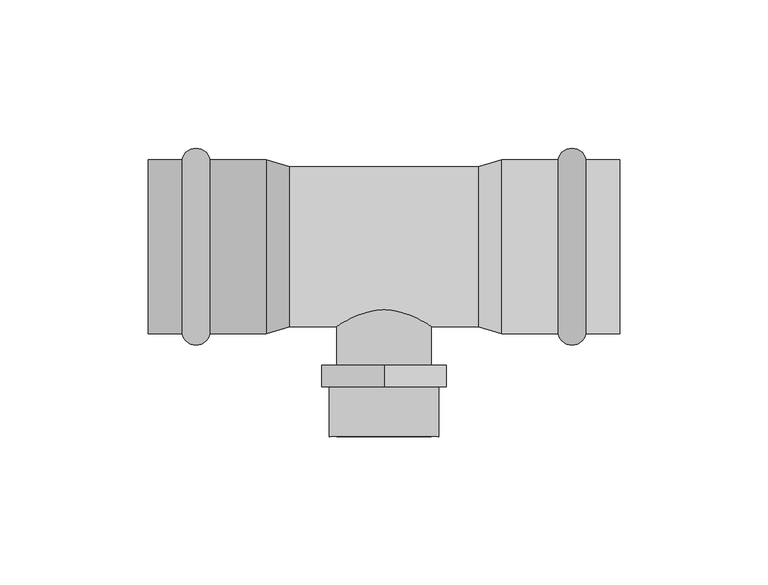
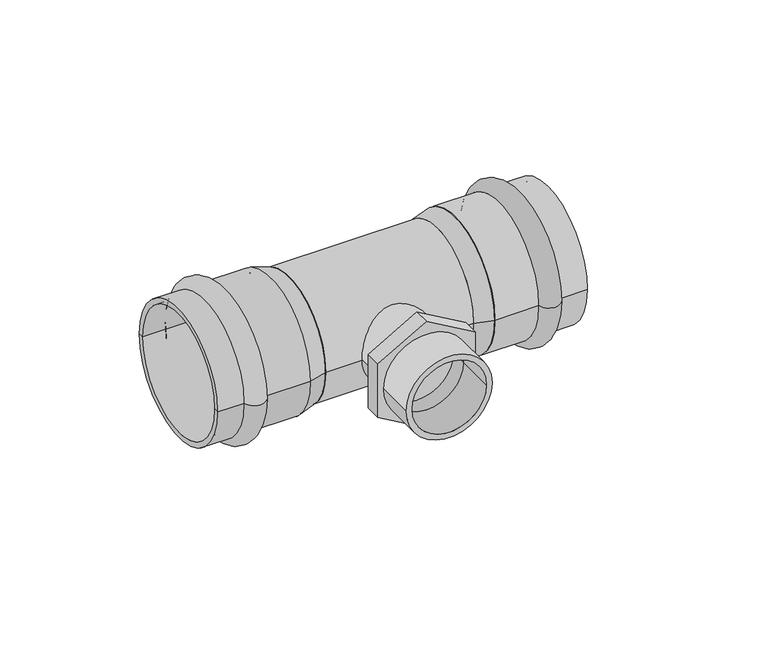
"""IFC4 building model written with IfcOpenShell, lengths in millimetres: pipe fitting geometry, VALTEC_VTi.933.I_Тройник с переходом на наружную  резьбу нержавеющая сталь : VTi.933.I."""

from ifc_helpers import new_model, si_unit, point, frame, origin, origin_2d, place, context, project, spatial, polyline, circle_curve, ellipse_curve, trimmed, segment, composite_curve, outline, extrude, source, transform, mapped, element, save
from ifc_brep_helpers import plane_surface, cylinder_surface, revolved_surface, advanced_brep


def pipe_fitting_71fe2973(model_context):
    return source(origin(), model_context, "Body", "SolidModel", [
        advanced_brep(
        [(68.1148701, 29.3, 0.0), (68.1148701, -29.3, 0.0), (58.6851299, -29.3, 0.0), (58.6851299, 29.3, 0.0), (79.5, 29.3, 0.0), (79.5, -29.3, 0.0), (79.5, 27.0, 0.0), (79.5, -27.0, 0.0), (39.75, 27.0, 0.0), (39.75, -27.0, 0.0), (39.75, 29.3, 0.0), (39.75, -29.3, 0.0)],
        [
            (0, 1, circle_curve(frame((68.1148701, 0.0, 0.0), z_axis=(-1.0, 0.0, 0.0), x_axis=(0.0, -1.0, 0.0)), 29.3)),
            (1, 2, circle_curve(frame((63.4, -28.4, 0.0), z_axis=(0.0, 0.0, -1.0), x_axis=(-1.0, 0.0, 0.0)), 4.8)),
            (2, 3, circle_curve(frame((58.6851299, 0.0, 0.0), z_axis=(1.0, 0.0, 0.0), x_axis=(0.0, -1.0, 0.0)), 29.3)),
            (3, 0, circle_curve(frame((63.4, 28.4, 0.0), z_axis=(0.0, 0.0, -1.0), x_axis=(-1.0, 0.0, 0.0)), 4.8)),
            (1, 0, circle_curve(frame((68.1148701, 0.0, 0.0), z_axis=(-1.0, 0.0, 0.0), x_axis=(0.0, -1.0, 0.0)), 29.3)),
            (3, 2, circle_curve(frame((58.6851299, 0.0, 0.0), z_axis=(1.0, 0.0, 0.0), x_axis=(0.0, -1.0, 0.0)), 29.3)),
            (4, 5, circle_curve(frame((79.5, 0.0, 0.0), z_axis=(-1.0, 0.0, 0.0), x_axis=(0.0, -1.0, 0.0)), 29.3)),
            (5, 1),
            (0, 4),
            (5, 4, circle_curve(frame((79.5, 0.0, 0.0), z_axis=(-1.0, 0.0, 0.0), x_axis=(0.0, -1.0, 0.0)), 29.3)),
            (6, 7, circle_curve(frame((79.5, 0.0, 0.0), z_axis=(-1.0, 0.0, 0.0), x_axis=(0.0, -1.0, 0.0)), 27.0)),
            (7, 5),
            (4, 6),
            (7, 6, circle_curve(frame((79.5, 0.0, 0.0), z_axis=(-1.0, 0.0, 0.0), x_axis=(0.0, -1.0, 0.0)), 27.0)),
            (8, 9, circle_curve(frame((39.75, 0.0, 0.0), z_axis=(-1.0, 0.0, 0.0), x_axis=(0.0, -1.0, 0.0)), 27.0)),
            (9, 7),
            (6, 8),
            (9, 8, circle_curve(frame((39.75, 0.0, 0.0), z_axis=(-1.0, 0.0, 0.0), x_axis=(0.0, -1.0, 0.0)), 27.0)),
            (10, 11, circle_curve(frame((39.75, 0.0, 0.0), z_axis=(-1.0, 0.0, 0.0), x_axis=(0.0, -1.0, 0.0)), 29.3)),
            (11, 9),
            (8, 10),
            (11, 10, circle_curve(frame((39.75, 0.0, 0.0), z_axis=(-1.0, 0.0, 0.0), x_axis=(0.0, -1.0, 0.0)), 29.3)),
            (2, 11),
            (10, 3),
        ],
        [
            revolved_surface(trimmed(ellipse_curve(frame((63.4, -28.4, 0.0), z_axis=(0.0, 0.0, 1.0), x_axis=(-1.0, 0.0, 0.0)), 4.8, 4.8), [point((58.6851299, -29.3, 0.0))], [point((68.1148701, -29.3, 0.0))], True, "CARTESIAN"), (83.0364426, 0.0, 0.0), (1.0, 0.0, 0.0)),
            cylinder_surface(frame((83.0364426, 0.0, 0.0), z_axis=(1.0, 0.0, 0.0), x_axis=(0.0, -1.0, 0.0)), 29.3),
            plane_surface(frame((79.5, 0.0, 0.0), z_axis=(1.0, 0.0, 0.0), x_axis=(0.0, -1.0, 0.0))),
            revolved_surface(polyline([(79.5, -27.0, 0.0), (39.75, -27.0, 0.0)]), (83.0364426, 0.0, 0.0), (1.0, 0.0, 0.0)),
            plane_surface(frame((39.75, 0.0, 0.0), z_axis=(-1.0, 0.0, 0.0), x_axis=(0.0, -1.0, 0.0))),
        ],
        [
            (0, [[1, 2, 3, 4]]),
            (0, [[5, -4, 6, -2]]),
            (1, [[7, 8, -1, 9]]),
            (1, [[10, -9, -5, -8]]),
            (2, [[11, 12, -7, 13]]),
            (2, [[14, -13, -10, -12]]),
            (3, [[15, 16, -11, 17]]),
            (3, [[18, -17, -14, -16]]),
            (4, [[19, 20, -15, 21]]),
            (4, [[22, -21, -18, -20]]),
            (1, [[-3, 23, -19, 24]]),
            (1, [[-6, -24, -22, -23]]),
        ],
    ),
        advanced_brep(
        [(-68.1148701, -29.3, 0.0), (-68.1148701, 29.3, 0.0), (-58.6851299, 29.3, 0.0), (-58.6851299, -29.3, 0.0), (-79.5, -29.3, 0.0), (-79.5, 29.3, 0.0), (-79.5, -27.0, 0.0), (-79.5, 27.0, 0.0), (-39.75, -27.0, 0.0), (-39.75, 27.0, 0.0), (-39.75, -29.3, 0.0), (-39.75, 29.3, 0.0)],
        [
            (0, 1, circle_curve(frame((-68.1148701, 0.0, 0.0), z_axis=(1.0, 0.0, 0.0), x_axis=(0.0, 1.0, 0.0)), 29.3)),
            (1, 2, circle_curve(frame((-63.4, 28.4, 0.0), z_axis=(0.0, 0.0, -1.0), x_axis=(1.0, 0.0, 0.0)), 4.8)),
            (2, 3, circle_curve(frame((-58.6851299, 0.0, 0.0), z_axis=(-1.0, 0.0, 0.0), x_axis=(0.0, 1.0, 0.0)), 29.3)),
            (3, 0, circle_curve(frame((-63.4, -28.4, 0.0), z_axis=(0.0, 0.0, -1.0), x_axis=(1.0, 0.0, 0.0)), 4.8)),
            (1, 0, circle_curve(frame((-68.1148701, 0.0, 0.0), z_axis=(1.0, 0.0, 0.0), x_axis=(0.0, 1.0, 0.0)), 29.3)),
            (3, 2, circle_curve(frame((-58.6851299, 0.0, 0.0), z_axis=(-1.0, 0.0, 0.0), x_axis=(0.0, 1.0, 0.0)), 29.3)),
            (4, 5, circle_curve(frame((-79.5, 0.0, 0.0), z_axis=(1.0, 0.0, 0.0), x_axis=(0.0, 1.0, 0.0)), 29.3)),
            (5, 1),
            (0, 4),
            (5, 4, circle_curve(frame((-79.5, 0.0, 0.0), z_axis=(1.0, 0.0, 0.0), x_axis=(0.0, 1.0, 0.0)), 29.3)),
            (6, 7, circle_curve(frame((-79.5, 0.0, 0.0), z_axis=(1.0, 0.0, 0.0), x_axis=(0.0, 1.0, 0.0)), 27.0)),
            (7, 5),
            (4, 6),
            (7, 6, circle_curve(frame((-79.5, 0.0, 0.0), z_axis=(1.0, 0.0, 0.0), x_axis=(0.0, 1.0, 0.0)), 27.0)),
            (8, 9, circle_curve(frame((-39.75, 0.0, 0.0), z_axis=(1.0, 0.0, 0.0), x_axis=(0.0, 1.0, 0.0)), 27.0)),
            (9, 7),
            (6, 8),
            (9, 8, circle_curve(frame((-39.75, 0.0, 0.0), z_axis=(1.0, 0.0, 0.0), x_axis=(0.0, 1.0, 0.0)), 27.0)),
            (10, 11, circle_curve(frame((-39.75, 0.0, 0.0), z_axis=(1.0, 0.0, 0.0), x_axis=(0.0, 1.0, 0.0)), 29.3)),
            (11, 9),
            (8, 10),
            (11, 10, circle_curve(frame((-39.75, 0.0, 0.0), z_axis=(1.0, 0.0, 0.0), x_axis=(0.0, 1.0, 0.0)), 29.3)),
            (2, 11),
            (10, 3),
        ],
        [
            revolved_surface(trimmed(ellipse_curve(frame((-63.4, 28.4, 0.0), z_axis=(0.0, 0.0, 1.0), x_axis=(1.0, 0.0, 0.0)), 4.8, 4.8), [point((-58.6851299, 29.3, 0.0))], [point((-68.1148701, 29.3, 0.0))], True, "CARTESIAN"), (-83.0364426, 0.0, 0.0), (-1.0, 0.0, 0.0)),
            cylinder_surface(frame((-83.0364426, 0.0, 0.0), z_axis=(-1.0, 0.0, 0.0), x_axis=(0.0, 1.0, 0.0)), 29.3),
            plane_surface(frame((-79.5, 0.0, 0.0), z_axis=(-1.0, 0.0, 0.0), x_axis=(0.0, 1.0, 0.0))),
            revolved_surface(polyline([(-79.5, 27.0, 0.0), (-39.75, 27.0, 0.0)]), (-83.0364426, 0.0, 0.0), (-1.0, 0.0, 0.0)),
            plane_surface(frame((-39.75, 0.0, 0.0), z_axis=(1.0, 0.0, 0.0), x_axis=(0.0, 1.0, 0.0))),
        ],
        [
            (0, [[1, 2, 3, 4]]),
            (0, [[5, -4, 6, -2]]),
            (1, [[7, 8, -1, 9]]),
            (1, [[10, -9, -5, -8]]),
            (2, [[11, 12, -7, 13]]),
            (2, [[14, -13, -10, -12]]),
            (3, [[15, 16, -11, 17]]),
            (3, [[18, -17, -14, -16]]),
            (4, [[19, 20, -15, 21]]),
            (4, [[22, -21, -18, -20]]),
            (1, [[-3, 23, -19, 24]]),
            (1, [[-6, -24, -22, -23]]),
        ],
    ),
        extrude(outline(composite_curve([segment(trimmed(circle_curve(origin_2d(), 18.5), [point((0.0, -18.5))], [point((0.0, 18.5))], False, "CARTESIAN"), True, "CONTINUOUS"), segment(trimmed(circle_curve(origin_2d(), 18.5), [point((0.0, 18.5))], [point((0.0, -18.5))], False, "CARTESIAN"), True, "CONTINUOUS")], self_intersect=False), holes=[composite_curve([segment(trimmed(circle_curve(origin_2d(), 16.0), [point((0.0, -16.0))], [point((0.0, 16.0))], True, "CARTESIAN"), True, "CONTINUOUS"), segment(trimmed(circle_curve(origin_2d(), 16.0), [point((0.0, 16.0))], [point((0.0, -16.0))], True, "CARTESIAN"), True, "CONTINUOUS")], self_intersect=False)]), frame((0.0, -64.0, 0.0), z_axis=(0.0, 1.0, 0.0), x_axis=(0.0, 0.0, 1.0)), (0.0, 0.0, 1.0), 16.8),
        extrude(outline(polyline([(24.2487113, 0.0), (12.1243557, -21.0), (-12.1243557, -21.0), (-24.2487113, 0.0), (-12.1243557, 21.0), (12.1243557, 21.0), (24.2487113, 0.0)]), holes=[composite_curve([segment(trimmed(circle_curve(origin_2d(), 16.0), [point((0.0, -16.0))], [point((0.0, 16.0))], True, "CARTESIAN"), True, "CONTINUOUS"), segment(trimmed(circle_curve(origin_2d(), 16.0), [point((0.0, 16.0))], [point((0.0, -16.0))], True, "CARTESIAN"), True, "CONTINUOUS")], self_intersect=False)]), frame((0.0, -47.2, 0.0), z_axis=(0.0, 1.0, 0.0), x_axis=(0.0, 0.0, 1.0)), (0.0, 0.0, 1.0), 7.2),
        extrude(outline(composite_curve([segment(trimmed(circle_curve(origin_2d(), 16.0), [point((0.0, -16.0))], [point((0.0, 16.0))], False, "CARTESIAN"), True, "CONTINUOUS"), segment(trimmed(circle_curve(origin_2d(), 16.0), [point((0.0, 16.0))], [point((0.0, -16.0))], False, "CARTESIAN"), True, "CONTINUOUS")], self_intersect=False)), frame((0.0, -40.0, 0.0), z_axis=(0.0, 1.0, 0.0), x_axis=(0.0, 0.0, 1.0)), (0.0, 0.0, 1.0), 40.0),
        extrude(outline(composite_curve([segment(trimmed(circle_curve(origin_2d(), 27.0), [point((-27.0, 0.0))], [point((27.0, 0.0))], False, "CARTESIAN"), True, "CONTINUOUS"), segment(trimmed(circle_curve(origin_2d(), 27.0), [point((27.0, 0.0))], [point((-27.0, 0.0))], False, "CARTESIAN"), True, "CONTINUOUS")], self_intersect=False)), frame((-31.8, 0.0, 0.0), z_axis=(1.0, 0.0, 0.0), x_axis=(0.0, 1.0, 0.0)), (0.0, 0.0, 1.0), 63.6),
        advanced_brep(
        [(39.75, -29.3, 0.0), (39.75, 29.3, 0.0), (31.8, -27.0, 0.0), (31.8, 27.0, 0.0)],
        [
            (0, 1, circle_curve(frame((39.75, 0.0, 0.0), z_axis=(1.0, 0.0, 0.0), x_axis=(0.0, -1.0, 0.0)), 29.3)),
            (1, 0, circle_curve(frame((39.75, 0.0, 0.0), z_axis=(1.0, 0.0, 0.0), x_axis=(0.0, 1.0, 0.0)), 29.3)),
            (2, 3, circle_curve(frame((31.8, 0.0, 0.0), z_axis=(-1.0, 0.0, 0.0), x_axis=(0.0, 1.0, 0.0)), 27.0)),
            (3, 2, circle_curve(frame((31.8, 0.0, 0.0), z_axis=(-1.0, 0.0, 0.0), x_axis=(0.0, -1.0, 0.0)), 27.0)),
            (3, 1),
            (0, 2),
        ],
        [
            plane_surface(frame((39.75, 0.0, 0.0), z_axis=(1.0, 0.0, 0.0), x_axis=(0.0, 0.0, 1.0))),
            plane_surface(frame((31.8, 0.0, 0.0), z_axis=(-1.0, 0.0, 0.0), x_axis=(0.0, 0.0, 1.0))),
            revolved_surface(polyline([(31.800000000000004, 27.000000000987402, 0.0), (39.74999999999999, 29.3, 0.0)]), (-61.526087, 0.0, 0.0), (1.0, 0.0, 0.0)),
            revolved_surface(polyline([(31.800000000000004, -27.000000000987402, 0.0), (39.74999999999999, -29.3, 0.0)]), (-61.526087, 0.0, 0.0), (1.0, 0.0, 0.0)),
        ],
        [
            (0, [[1, 2]]),
            (1, [[3, 4]]),
            (2, [[-4, 5, -1, 6]]),
            (3, [[-3, -6, -2, -5]]),
        ],
    ),
        advanced_brep(
        [(-39.75, -29.3, 0.0), (-39.75, 29.3, 0.0), (-31.8, -27.0, 0.0), (-31.8, 27.0, 0.0)],
        [
            (0, 1, circle_curve(frame((-39.75, 0.0, 0.0), z_axis=(-1.0, 0.0, 0.0), x_axis=(0.0, -1.0, 0.0)), 29.3)),
            (1, 0, circle_curve(frame((-39.75, 0.0, 0.0), z_axis=(-1.0, 0.0, 0.0), x_axis=(0.0, 1.0, 0.0)), 29.3)),
            (2, 3, circle_curve(frame((-31.8, 0.0, 0.0), z_axis=(1.0, 0.0, 0.0), x_axis=(0.0, 1.0, 0.0)), 27.0)),
            (3, 2, circle_curve(frame((-31.8, 0.0, 0.0), z_axis=(1.0, 0.0, 0.0), x_axis=(0.0, -1.0, 0.0)), 27.0)),
            (2, 0),
            (1, 3),
        ],
        [
            plane_surface(frame((-39.75, 0.0, 0.0), z_axis=(-1.0, 0.0, 0.0), x_axis=(0.0, 0.0, -1.0))),
            plane_surface(frame((-31.8, 0.0, 0.0), z_axis=(1.0, 0.0, 0.0), x_axis=(0.0, 0.0, -1.0))),
            revolved_surface(polyline([(-31.800000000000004, -27.000000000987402, 0.0), (-39.74999999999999, -29.3, 0.0)]), (61.526087, 0.0, 0.0), (-1.0, 0.0, 0.0)),
            revolved_surface(polyline([(-31.800000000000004, 27.000000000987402, 0.0), (-39.74999999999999, 29.3, 0.0)]), (61.526087, 0.0, 0.0), (-1.0, 0.0, 0.0)),
        ],
        [
            (0, [[1, 2]]),
            (1, [[3, 4]]),
            (2, [[-3, 5, -2, 6]]),
            (3, [[-4, -6, -1, -5]]),
        ],
    ),
    ])


if __name__ == "__main__":
    model = new_model("IFC4")
    model_context = context("Model", 3, world=origin())
    ifc_project = project(units=[si_unit("LENGTHUNIT", "METRE", prefix="MILLI")], contexts=[model_context])
    site = spatial("IfcSite", under=ifc_project)
    building = spatial("IfcBuilding", under=site)
    placement = place(None, origin())
    pipe_fitting_shape = pipe_fitting_71fe2973(model_context)
    element("IfcPipeFitting", 1, ObjectType="VALTEC_VTi.933.I_Тройник с переходом на наружную  резьбу нержавеющая сталь : VTi.933.I", at=placement, inside=building, context=model_context, shape_type="MappedRepresentation", body=[
        mapped(pipe_fitting_shape, transform((0.0, 0.0, 0.0), x_axis=(1.0, 0.0, 0.0), y_axis=(0.0, 1.0, 0.0), z_axis=(0.0, 0.0, 1.0))),
    ])
    save(model, "model.ifc")
